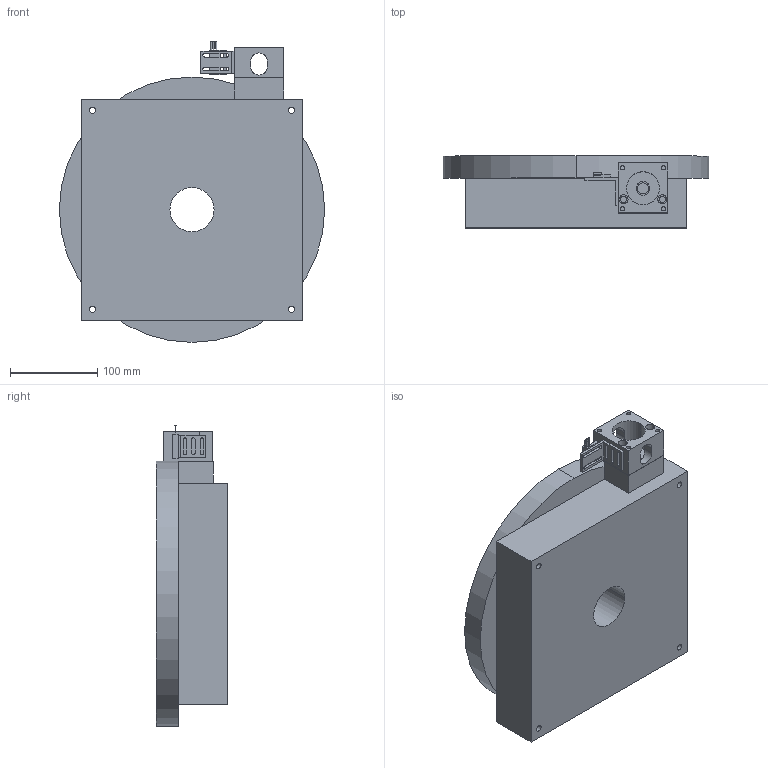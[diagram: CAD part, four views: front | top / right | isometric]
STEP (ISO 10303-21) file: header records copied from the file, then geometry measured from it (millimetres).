
FILE_DESCRIPTION((''),'2;1');
FILE_NAME('E212-ROTARY-T3_ASM','2005-02-18T',('BF20108'),(''),'PRO/ENGINEER BY PARAMETRIC TECHNOLOGY CORPORATION, 2004400','PRO/ENGINEER BY PARAMETRIC TECHNOLOGY CORPORATION, 2004400','');
FILE_SCHEMA(('CONFIG_CONTROL_DESIGN'));
Length unit declared in the file: inch
Products named in the file (8): E10RO-BASE; E12RO-TOP-T3; SPACER-270; E-0176-01; 000-4457-SW-BRKT; 003-1145-SWITCH; ROTARY-TBL-HOME-SW_ASM; E212-ROTARY-T3_ASM
Assembly tree (7 placements, depth 3):
  E212-ROTARY-T3_ASM
    E10RO-BASE
    E12RO-TOP-T3
    SPACER-270
    E-0176-01
    ROTARY-TBL-HOME-SW_ASM
      000-4457-SW-BRKT
      003-1145-SWITCH
Bounding box: 304.8 x 82.55 x 345.53 mm (x, y, z)
Volume: 5419181.1 mm3; surface area: 410594.4 mm2
Topology: 6 solids, 6 shells, 155 faces, 400 edges, 266 vertices
Faces by surface type: cylinder 90, plane 65
Entity records: 5224 total; most frequent: DIRECTION 916, CARTESIAN_POINT 914, ORIENTED_EDGE 800, EDGE_CURVE 400, AXIS2_PLACEMENT_3D 350, VERTEX_POINT 266, EDGE_LOOP 230, VECTOR 216
